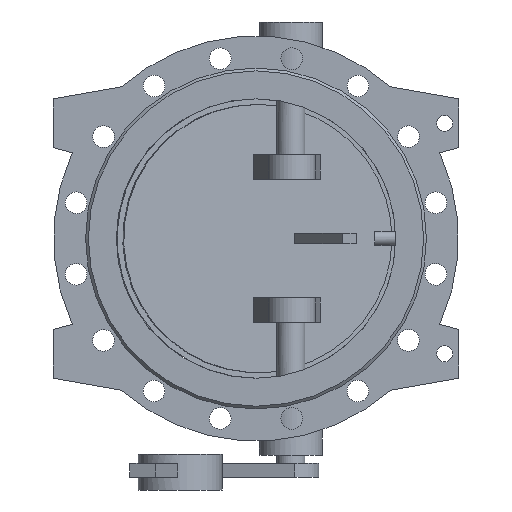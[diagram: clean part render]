
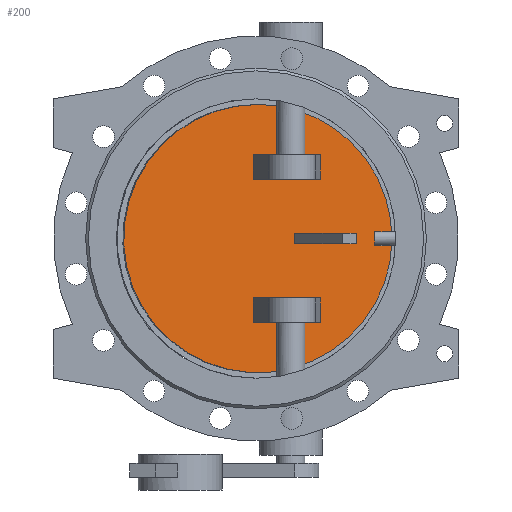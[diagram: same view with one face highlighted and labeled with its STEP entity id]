
A CAD part, front view. The second image highlights one B-rep face of the part: STEP entity #200.
In plain terms, the highlighted planar face has unit normal (0.131, -0.991, 0).
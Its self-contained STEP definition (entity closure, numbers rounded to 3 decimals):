
#200=ADVANCED_FACE('',(#1366,#1368,#1370,#1372),#1374,.T.);
#1366=FACE_BOUND('',#1367,.T.);
#1367=EDGE_LOOP('',(#2561));
#1368=FACE_BOUND('',#1369,.T.);
#1369=EDGE_LOOP('',(#2562,#2563,#2564,#2565));
#1370=FACE_BOUND('',#1371,.T.);
#1371=EDGE_LOOP('',(#2566,#2567,#2568,#2569));
#1372=FACE_BOUND('',#1373,.T.);
#1373=EDGE_LOOP('',(#2570,#2571,#2572,#2573));
#1374=PLANE('',#1375);
#1375=AXIS2_PLACEMENT_3D('',#1376,#1377,#1378);
#1376=CARTESIAN_POINT('',(-1.272,9.66,0.));
#1377=DIRECTION('',(0.131,-0.991,0.));
#1378=DIRECTION('',(0.,0.,-1.));
#2561=ORIENTED_EDGE('',*,*,#3072,.T.);
#2562=ORIENTED_EDGE('',*,*,#3076,.F.);
#2563=ORIENTED_EDGE('',*,*,#3077,.F.);
#2564=ORIENTED_EDGE('',*,*,#3078,.F.);
#2565=ORIENTED_EDGE('',*,*,#3079,.F.);
#2566=ORIENTED_EDGE('',*,*,#3080,.F.);
#2567=ORIENTED_EDGE('',*,*,#3081,.F.);
#2568=ORIENTED_EDGE('',*,*,#3082,.F.);
#2569=ORIENTED_EDGE('',*,*,#3083,.F.);
#2570=ORIENTED_EDGE('',*,*,#3084,.F.);
#2571=ORIENTED_EDGE('',*,*,#3085,.F.);
#2572=ORIENTED_EDGE('',*,*,#3086,.F.);
#2573=ORIENTED_EDGE('',*,*,#3087,.F.);
#3072=EDGE_CURVE('',#3361,#3361,#3362,.T.);
#3076=EDGE_CURVE('',#3369,#3370,#3371,.T.);
#3077=EDGE_CURVE('',#3372,#3369,#3373,.F.);
#3078=EDGE_CURVE('',#3374,#3372,#3375,.T.);
#3079=EDGE_CURVE('',#3370,#3374,#3376,.T.);
#3080=EDGE_CURVE('',#3377,#3378,#3379,.F.);
#3081=EDGE_CURVE('',#3380,#3377,#3381,.T.);
#3082=EDGE_CURVE('',#3382,#3380,#3383,.T.);
#3083=EDGE_CURVE('',#3378,#3382,#3384,.T.);
#3084=EDGE_CURVE('',#3385,#3386,#3387,.T.);
#3085=EDGE_CURVE('',#3388,#3385,#3389,.F.);
#3086=EDGE_CURVE('',#3390,#3388,#3391,.F.);
#3087=EDGE_CURVE('',#3386,#3390,#3392,.F.);
#3361=VERTEX_POINT('',#4196);
#3362=B_SPLINE_CURVE_WITH_KNOTS('',3,
(#4197,#4198,#4199,#4200,#4201,#4202,#4203,#4204,#4205,#4206,#4207,#4208,#4209,#4210,
#4211,#4212,#4213,#4214,#4215,#4216,#4217,#4218,#4219,#4220,#4221,#4222,#4223,#4224,
#4225,#4226,#4227,#4228,#4229,#4230,#4231,#4232,#4233,#4234,#4235,#4236,#4237,#4238,
#4239,#4240,#4241,#4242,#4243,#4244,#4245,#4246,#4247),
.UNSPECIFIED.,.T.,.F.,
(4,1,1,1,1,1,1,1,1,1,1,1,1,1,1,1,1,1,1,1,1,1,1,1,1,1,1,1,1,1,1,1,1,1,1,1,1,1,1,1,
1,1,1,1,1,1,1,1,4),
(0.,0.021,0.042,0.063,0.084,0.105,
0.126,0.147,0.168,0.189,0.211,
0.232,0.253,0.274,0.295,0.316,
0.337,0.358,0.379,0.4,0.421,
0.442,0.463,0.484,0.505,0.526,
0.548,0.569,0.59,0.611,0.632,
0.653,0.674,0.695,0.716,0.737,
0.758,0.779,0.8,0.821,0.843,
0.864,0.885,0.906,0.927,0.948,
0.969,0.986,1.),
.UNSPECIFIED.);
#3369=VERTEX_POINT('',#4310);
#3370=VERTEX_POINT('',#4311);
#3371=LINE('',#4312,#4313);
#3372=VERTEX_POINT('',#4315);
#3373=LINE('',#4316,#4317);
#3374=VERTEX_POINT('',#4319);
#3375=LINE('',#4320,#4321);
#3376=LINE('',#4323,#4324);
#3377=VERTEX_POINT('',#4326);
#3378=VERTEX_POINT('',#4327);
#3379=LINE('',#4328,#4329);
#3380=VERTEX_POINT('',#4331);
#3381=LINE('',#4332,#4333);
#3382=VERTEX_POINT('',#4335);
#3383=LINE('',#4336,#4337);
#3384=LINE('',#4339,#4340);
#3385=VERTEX_POINT('',#4342);
#3386=VERTEX_POINT('',#4343);
#3387=LINE('',#4344,#4345);
#3388=VERTEX_POINT('',#4347);
#3389=LINE('',#4348,#4349);
#3390=VERTEX_POINT('',#4351);
#3391=LINE('',#4352,#4353);
#3392=LINE('',#4355,#4356);
#4196=CARTESIAN_POINT('',(2.611,10.171,192.));
#4197=CARTESIAN_POINT('',(2.611,10.171,192.));
#4198=CARTESIAN_POINT('',(-5.823,9.061,192.));
#4199=CARTESIAN_POINT('',(-22.711,6.837,190.886));
#4200=CARTESIAN_POINT('',(-47.636,3.556,185.894));
#4201=CARTESIAN_POINT('',(-71.72,0.385,177.648));
#4202=CARTESIAN_POINT('',(-94.522,-2.617,166.288));
#4203=CARTESIAN_POINT('',(-115.624,-5.395,152.021));
#4204=CARTESIAN_POINT('',(-134.659,-7.901,135.094));
#4205=CARTESIAN_POINT('',(-151.295,-10.091,115.801));
#4206=CARTESIAN_POINT('',(-165.239,-11.927,94.481));
#4207=CARTESIAN_POINT('',(-176.246,-13.376,71.506));
#4208=CARTESIAN_POINT('',(-184.124,-14.413,47.279));
#4209=CARTESIAN_POINT('',(-188.733,-15.02,22.223));
#4210=CARTESIAN_POINT('',(-189.993,-15.186,-3.222));
#4211=CARTESIAN_POINT('',(-187.882,-14.908,-28.61));
#4212=CARTESIAN_POINT('',(-182.437,-14.191,-53.496));
#4213=CARTESIAN_POINT('',(-173.755,-13.048,-77.443));
#4214=CARTESIAN_POINT('',(-161.987,-11.499,-100.034));
#4215=CARTESIAN_POINT('',(-147.342,-9.57,-120.873));
#4216=CARTESIAN_POINT('',(-130.075,-7.297,-139.596));
#4217=CARTESIAN_POINT('',(-110.489,-4.719,-155.877));
#4218=CARTESIAN_POINT('',(-88.926,-1.88,-169.431));
#4219=CARTESIAN_POINT('',(-65.763,1.17,-180.023));
#4220=CARTESIAN_POINT('',(-41.405,4.376,-187.467));
#4221=CARTESIAN_POINT('',(-16.277,7.685,-191.633));
#4222=CARTESIAN_POINT('',(9.181,11.036,-192.449));
#4223=CARTESIAN_POINT('',(34.525,14.373,-189.9));
#4224=CARTESIAN_POINT('',(59.311,17.636,-184.03));
#4225=CARTESIAN_POINT('',(83.107,20.769,-174.942));
#4226=CARTESIAN_POINT('',(105.496,23.716,-162.794));
#4227=CARTESIAN_POINT('',(126.087,26.427,-147.798));
#4228=CARTESIAN_POINT('',(144.52,28.854,-130.215));
#4229=CARTESIAN_POINT('',(160.471,30.954,-110.353));
#4230=CARTESIAN_POINT('',(173.661,32.69,-88.558));
#4231=CARTESIAN_POINT('',(183.858,34.033,-65.212));
#4232=CARTESIAN_POINT('',(190.884,34.958,-40.724));
#4233=CARTESIAN_POINT('',(194.614,35.449,-15.522));
#4234=CARTESIAN_POINT('',(194.984,35.497,9.951));
#4235=CARTESIAN_POINT('',(191.986,35.103,35.249));
#4236=CARTESIAN_POINT('',(185.674,34.272,59.929));
#4237=CARTESIAN_POINT('',(176.16,33.019,83.558));
#4238=CARTESIAN_POINT('',(163.61,31.367,105.723));
#4239=CARTESIAN_POINT('',(148.246,29.344,126.037));
#4240=CARTESIAN_POINT('',(130.335,26.986,144.146));
#4241=CARTESIAN_POINT('',(110.196,24.335,159.729));
#4242=CARTESIAN_POINT('',(88.207,21.44,172.503));
#4243=CARTESIAN_POINT('',(64.684,18.343,182.29));
#4244=CARTESIAN_POINT('',(41.487,15.289,188.508));
#4245=CARTESIAN_POINT('',(20.631,12.544,191.462));
#4246=CARTESIAN_POINT('',(8.118,10.896,192.));
#4247=CARTESIAN_POINT('',(2.611,10.171,192.));
#4310=CARTESIAN_POINT('',(129.358,26.858,-7.5));
#4311=CARTESIAN_POINT('',(129.358,26.858,7.5));
#4312=CARTESIAN_POINT('',(129.358,26.858,-7.5));
#4313=VECTOR('',#4314,1.);
#4314=DIRECTION('',(0.,0.,1.));
#4315=CARTESIAN_POINT('',(55.,17.068,-7.5));
#4316=CARTESIAN_POINT('',(129.358,26.858,-7.5));
#4317=VECTOR('',#4318,1.);
#4318=DIRECTION('',(-0.991,-0.131,0.));
#4319=CARTESIAN_POINT('',(55.,17.068,7.5));
#4320=CARTESIAN_POINT('',(55.,17.068,7.5));
#4321=VECTOR('',#4322,1.);
#4322=DIRECTION('',(0.,0.,-1.));
#4323=CARTESIAN_POINT('',(129.358,26.858,7.5));
#4324=VECTOR('',#4325,1.);
#4325=DIRECTION('',(-0.991,-0.131,0.));
#4326=CARTESIAN_POINT('',(-4.154,9.281,-120.));
#4327=CARTESIAN_POINT('',(92.142,21.958,-120.));
#4328=CARTESIAN_POINT('',(92.142,21.958,-120.));
#4329=VECTOR('',#4330,1.);
#4330=DIRECTION('',(-0.991,-0.131,0.));
#4331=CARTESIAN_POINT('',(-4.154,9.281,-85.));
#4332=CARTESIAN_POINT('',(-4.154,9.281,-85.));
#4333=VECTOR('',#4334,1.);
#4334=DIRECTION('',(0.,0.,-1.));
#4335=CARTESIAN_POINT('',(92.142,21.958,-85.));
#4336=CARTESIAN_POINT('',(92.142,21.958,-85.));
#4337=VECTOR('',#4338,1.);
#4338=DIRECTION('',(-0.991,-0.131,0.));
#4339=CARTESIAN_POINT('',(92.142,21.958,-120.));
#4340=VECTOR('',#4341,1.);
#4341=DIRECTION('',(0.,0.,1.));
#4342=CARTESIAN_POINT('',(92.142,21.958,120.));
#4343=CARTESIAN_POINT('',(-4.154,9.281,120.));
#4344=CARTESIAN_POINT('',(92.142,21.958,120.));
#4345=VECTOR('',#4346,1.);
#4346=DIRECTION('',(-0.991,-0.131,0.));
#4347=CARTESIAN_POINT('',(92.142,21.958,85.));
#4348=CARTESIAN_POINT('',(92.142,21.958,120.));
#4349=VECTOR('',#4350,1.);
#4350=DIRECTION('',(0.,0.,-1.));
#4351=CARTESIAN_POINT('',(-4.154,9.281,85.));
#4352=CARTESIAN_POINT('',(92.142,21.958,85.));
#4353=VECTOR('',#4354,1.);
#4354=DIRECTION('',(-0.991,-0.131,0.));
#4355=CARTESIAN_POINT('',(-4.154,9.281,85.));
#4356=VECTOR('',#4357,1.);
#4357=DIRECTION('',(0.,0.,1.));
